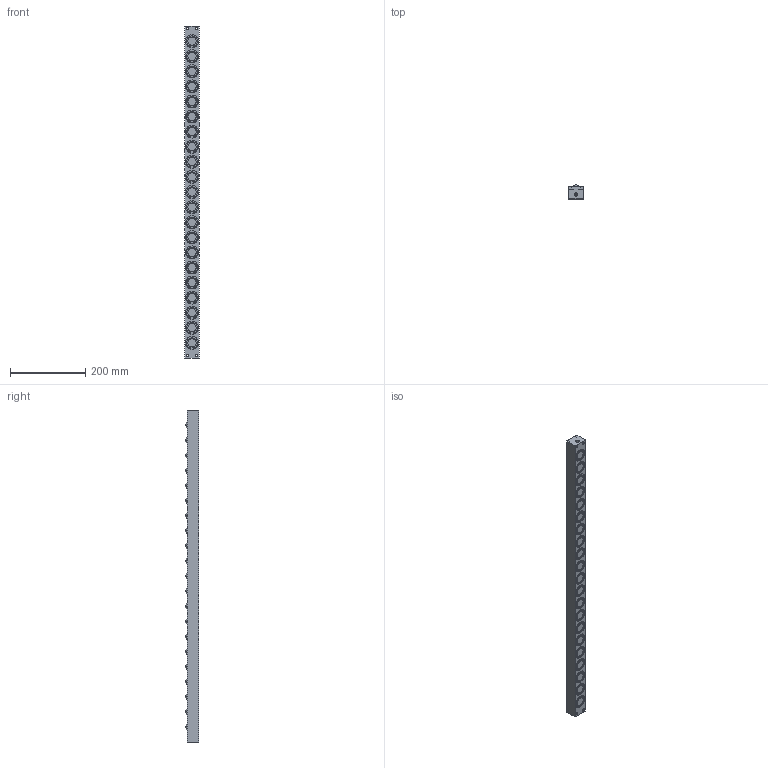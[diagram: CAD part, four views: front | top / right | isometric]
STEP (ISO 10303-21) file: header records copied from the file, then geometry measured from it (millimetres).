
FILE_DESCRIPTION (( 'STEP AP203' ), '1' );
FILE_NAME ('PVL30S-21.STEP', '2016-02-18T05:16:01', ( '' ), ( '' ), 'SwSTEP 2.0', 'SolidWorks 2013', '' );
FILE_SCHEMA (( 'CONFIG_CONTROL_DESIGN' ));
Length unit declared in the file: millimetre
Products named in the file (1): PVL30S-21
Bounding box: 38 x 36 x 880 mm (x, y, z)
Volume: 1020416.1 mm3; surface area: 158490.8 mm2
Topology: 1 solids, 1 shells, 684 faces, 1609 edges, 1078 vertices
Faces by surface type: cylinder 438, plane 200, sphere 42, cone 4
Entity records: 20290 total; most frequent: DIRECTION 3983, CARTESIAN_POINT 3370, ORIENTED_EDGE 3214, AXIS2_PLACEMENT_3D 1691, EDGE_CURVE 1607, VERTEX_POINT 1078, CIRCLE 1006, EDGE_LOOP 845
